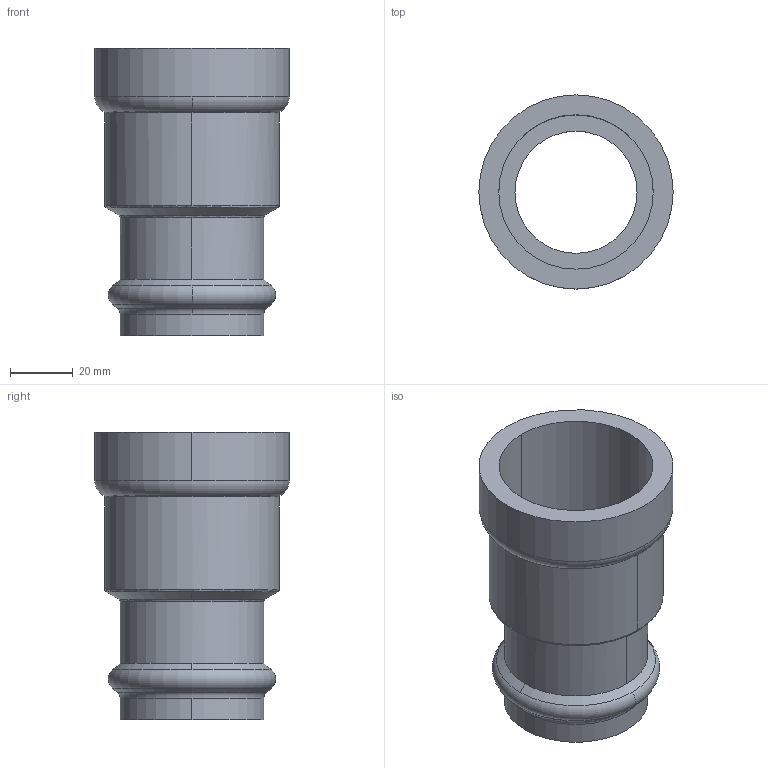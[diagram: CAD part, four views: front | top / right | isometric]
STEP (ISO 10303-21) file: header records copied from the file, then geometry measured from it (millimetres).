
FILE_DESCRIPTION(('Creo Elements/Direct Modeling STEP Export'),'2;1');
FILE_NAME('C9440_1-1-2_42.stp','2020-07-20T11:39:21',(''),(''),'PTC Creo Elements/Direct Modeling STEP processor for AP214 (Solid Model)','PTC Creo Elements/Direct Modeling 19.0C 15-Aug-2015 (C) Parametric Technology GmbH','');
FILE_SCHEMA(('AUTOMOTIVE_DESIGN { 1 0 10303 214 1 1 1 1 }'));
Length unit declared in the file: millimetre
Products named in the file (2): C9440_1-1-2_42
Assembly tree (1 placements, depth 2):
  C9440_1-1-2_42
    C9440_1-1-2_42
Bounding box: 62 x 62 x 91.79 mm (x, y, z)
Volume: 54120.9 mm3; surface area: 32002.1 mm2
Topology: 1 solids, 1 shells, 36 faces, 98 edges, 66 vertices
Faces by surface type: cylinder 14, torus 12, cone 6, plane 4
Entity records: 1015 total; most frequent: ORIENTED_EDGE 196, DIRECTION 160, CARTESIAN_POINT 156, EDGE_CURVE 98, AXIS2_PLACEMENT_3D 70, VERTEX_POINT 66, EDGE_LOOP 40, FACE_OUTER_BOUND 36
